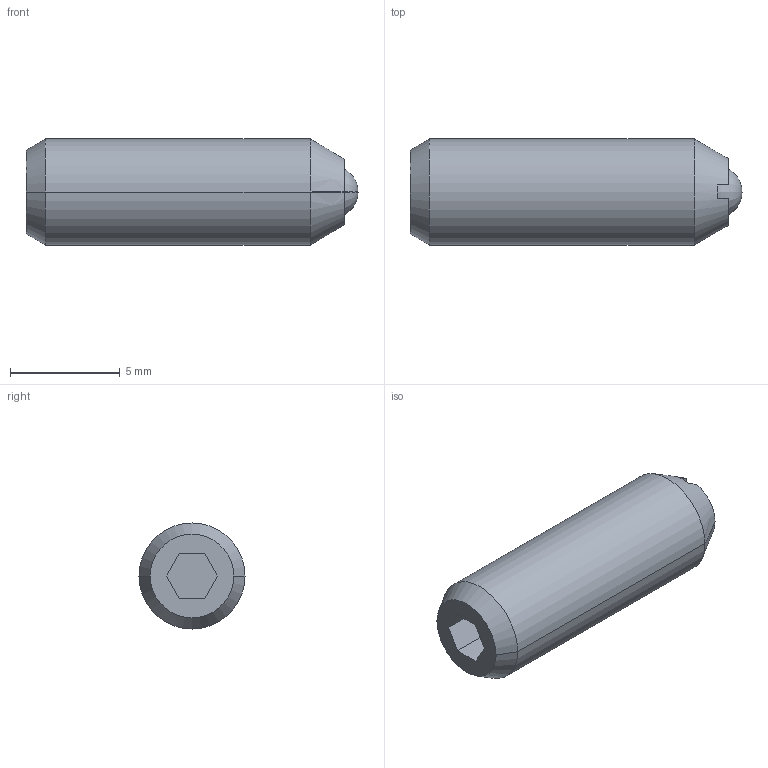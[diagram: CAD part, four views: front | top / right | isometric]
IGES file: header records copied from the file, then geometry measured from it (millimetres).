
Start section:  PTC IGES file: phb52-3d.igs
Global section: file name: phb52-3d.igs; native system: Pro/ENGINEER by Parametric Technology Corporation; preprocessor: 2002350; author: chant; organization: Unknown; date: 061026.092524; units: inch
Bounding box: 15.11 x 4.83 x 4.83 mm (x, y, z)
Surface area: 288.5 mm2 (no closed solid volume)
Topology: 0 solids, 0 shells, 27 faces, 191 edges, 241 vertices
Faces by surface type: bspline 15, revolution 12
